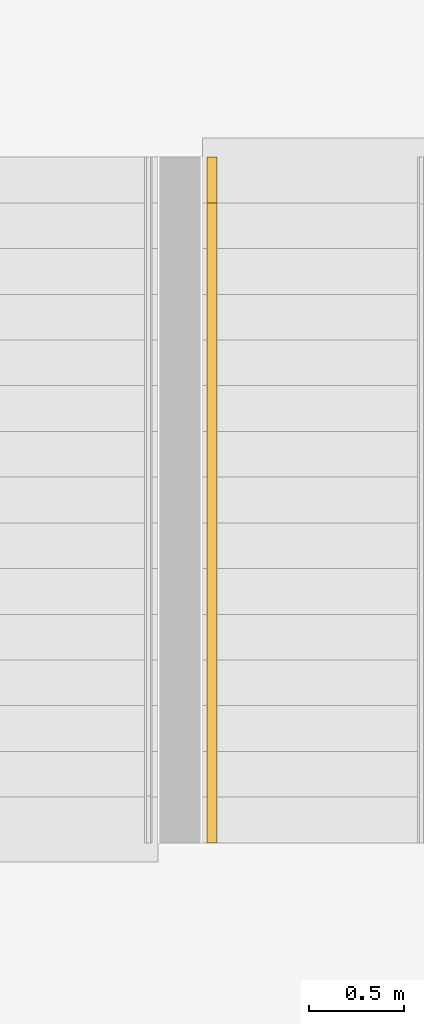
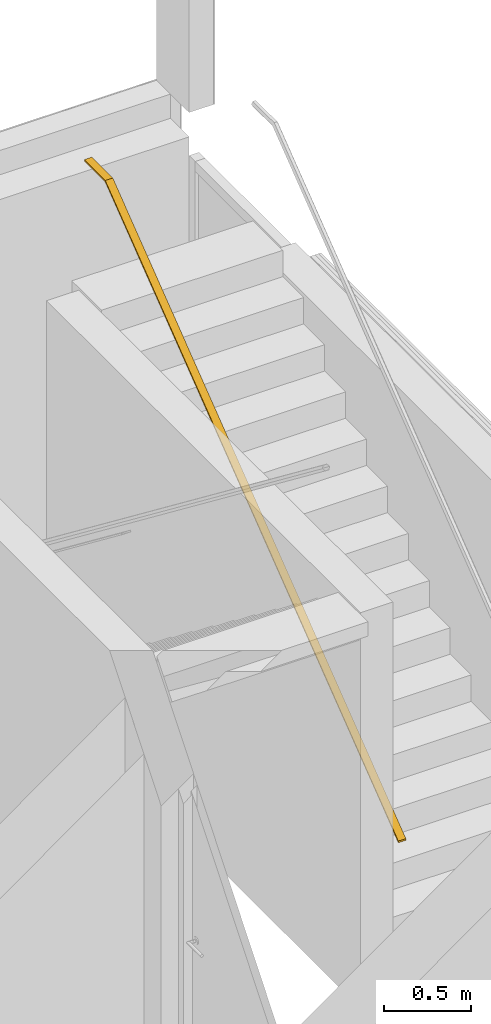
# One storey, part 13 of 22: 1 railing, 1 element without a shape of its own.
"""IFC2X3 building model written with IfcOpenShell, lengths in millimetres."""

from ifc_helpers import new_model, entity, si_unit, converted_unit, derived_unit, money_unit, direction, frame, origin_with_axes, place, context, subcontext, project, spatial, faceted_brep, source, transform, mapped, material, type_object, type_shapes, element, aggregate, save


model = new_model("IFC2X3")

# Units and contexts
model_context = context("Model", 3, precision=0.01, world=origin_with_axes(), true_north=direction((0.0, 1.0)))
body_context = subcontext(model_context, "Body", "Model", "MODEL_VIEW")
ifc_project = project(units=[si_unit("LENGTHUNIT", "METRE", prefix="MILLI"), si_unit("AREAUNIT", "SQUARE_METRE"), si_unit("VOLUMEUNIT", "CUBIC_METRE"), converted_unit("PLANEANGLEUNIT", "DEGREE", entity("IfcPlaneAngleMeasure", 0.0174532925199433), si_unit("PLANEANGLEUNIT", "RADIAN"), dimensions=[0, 0, 0, 0, 0, 0, 0]), money_unit("EUR"), converted_unit("TIMEUNIT", "Year", entity("IfcTimeMeasure", 31557600.0), si_unit("TIMEUNIT", "SECOND"), dimensions=[0, 0, 1, 0, 0, 0, 0]), si_unit("MASSUNIT", "GRAM", prefix="KILO"), si_unit("THERMODYNAMICTEMPERATUREUNIT", "DEGREE_CELSIUS"), si_unit("LUMINOUSINTENSITYUNIT", "LUMEN"), si_unit("ENERGYUNIT", "JOULE", prefix="MEGA"), derived_unit("THERMALCONDUCTANCEUNIT", [(si_unit("POWERUNIT", "WATT"), 1), (si_unit("LENGTHUNIT", "METRE"), -1), (si_unit("THERMODYNAMICTEMPERATUREUNIT", "KELVIN"), -1)]), derived_unit("SPECIFICHEATCAPACITYUNIT", [(si_unit("ENERGYUNIT", "JOULE"), 1), (si_unit("MASSUNIT", "GRAM", prefix="KILO"), -1), (si_unit("THERMODYNAMICTEMPERATUREUNIT", "KELVIN"), -1)]), derived_unit("MASSDENSITYUNIT", [(si_unit("MASSUNIT", "GRAM", prefix="KILO"), 1), (si_unit("VOLUMEUNIT", "CUBIC_METRE"), -1)])], contexts=[model_context])

# Site, building, storey
site_placement = place(None, origin_with_axes())
site = spatial("IfcSite", under=ifc_project, at=site_placement, Name="Site", CompositionType="ELEMENT")
building_placement = place(site_placement, origin_with_axes())
building = spatial("IfcBuilding", under=site, at=building_placement, Name="Naam gebouw", CompositionType="ELEMENT")
storey_placement = place(building_placement, frame((0.0, 0.0, 11150.0), z_axis=(0.0, 0.0, 1.0), x_axis=(1.0, 0.0, 0.0)))
storey = spatial("IfcBuildingStorey", under=building, at=storey_placement, Name="3e verdieping/dak N", CompositionType="ELEMENT", Elevation=11150.0)

# Stair, railing
stair_placement = place(storey_placement, frame((0.0, 0.0, -11150.0), z_axis=(0.0, 0.0, 1.0), x_axis=(1.0, 0.0, 0.0)))
stair = element("IfcStair", 1, at=stair_placement, inside=storey, Name="Precast Stair:Stair", ObjectType="Precast Stair:24_trap - prefab", ShapeType="NOTDEFINED")
ifc_material = material(Name="baluster_staal")
railing_type = type_object("IfcRailingType", Name="Railing:44_3B_leuning - staal 50x10mm", PredefinedType="NOTDEFINED")
shared_shape = source(origin_with_axes(), body_context, "Body", "Brep", [
    faceted_brep([(0.0, 50.0, 12.61762558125), (0.0, 50.0, 0.0), (0.0, 0.0, 0.0), (0.0, 0.0, 12.61762558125), (3360.0, 50.0, 2597.95095891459), (3363.40196826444, 50.0, 2587.95095891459), (3363.40196826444, 0.0, 2587.95095891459), (3360.0, 0.0, 2597.95095891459), (3600.0, 50.0, 2597.95095891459), (3600.0, 50.0, 2587.95095891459), (3600.0, 0.0, 2587.95095891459), (3600.0, 0.0, 2597.95095891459)], [[[0, 1, 2, 3]], [[1, 0, 4, 5]], [[2, 1, 5, 6]], [[3, 2, 6, 7]], [[0, 3, 7, 4]], [[5, 4, 8, 9]], [[6, 5, 9, 10]], [[7, 6, 10, 11]], [[4, 7, 11, 8]], [[8, 11, 10, 9]]]),
])
type_shapes(railing_type, [shared_shape])
railing_placement = place(stair_placement, frame((35232.0000000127, 34145.91242629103, 12532.04904108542), z_axis=(0.0, 0.0, 1.0), x_axis=(0.0, 1.0, 0.0)))
railing = element("IfcRailing", 2, at=railing_placement, type_object=railing_type, material=ifc_material, Name="Railing:44_3B_leuning - staal 50x10mm", PredefinedType="NOTDEFINED", context=body_context, shape_type="MappedRepresentation", body=[
    mapped(shared_shape, transform((0.0, 0.0, 0.0))),
])
aggregate(stair, [railing])

save(model, "model.ifc")
